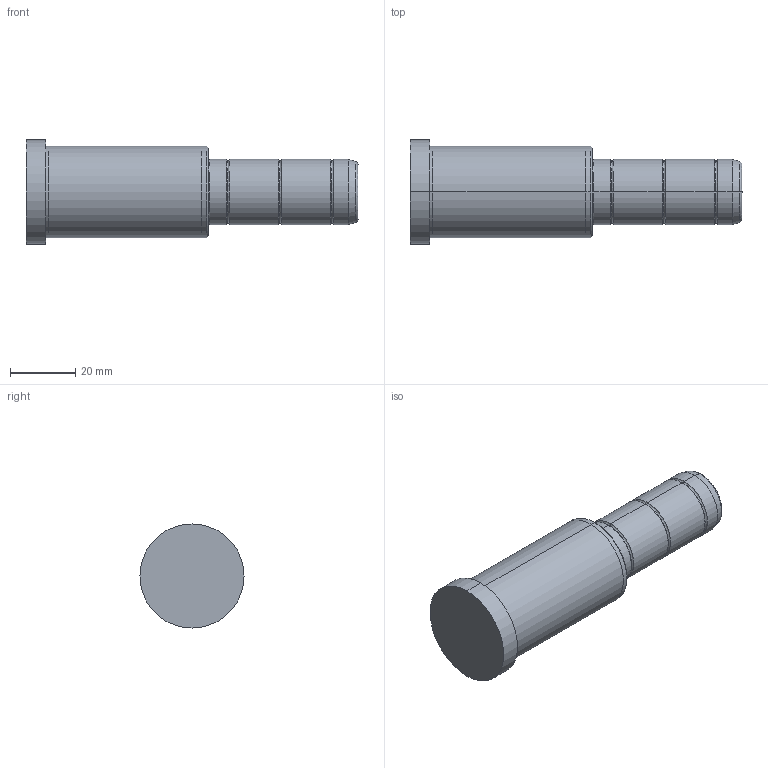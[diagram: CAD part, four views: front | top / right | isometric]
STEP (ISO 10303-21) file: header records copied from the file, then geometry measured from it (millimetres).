
FILE_DESCRIPTION( ( 'STEP AP203' ), '1' );
FILE_NAME( 'C:/Projects/D02 - 20x56x46.step', '2003-01-04T13:55:20', ( ' ' ), ( ' ' ), 'XStep 1.0', ' ', ' ' );
FILE_SCHEMA( ( 'CONFIG_CONTROL_DESIGN' ) );
Length unit declared in the file: metre
Products named in the file (1): 1
Bounding box: 102 x 32 x 32 mm (x, y, z)
Volume: 49945.7 mm3; surface area: 9500.6 mm2
Topology: 1 solids, 1 shells, 42 faces, 82 edges, 46 vertices
Faces by surface type: bspline 22, revolution 20
Entity records: 1325 total; most frequent: CARTESIAN_POINT 517, ORIENTED_EDGE 164, DIRECTION 134, EDGE_CURVE 82, AXIS2_PLACEMENT_3D 47, EDGE_LOOP 46, VERTEX_POINT 46, CIRCLE 46
